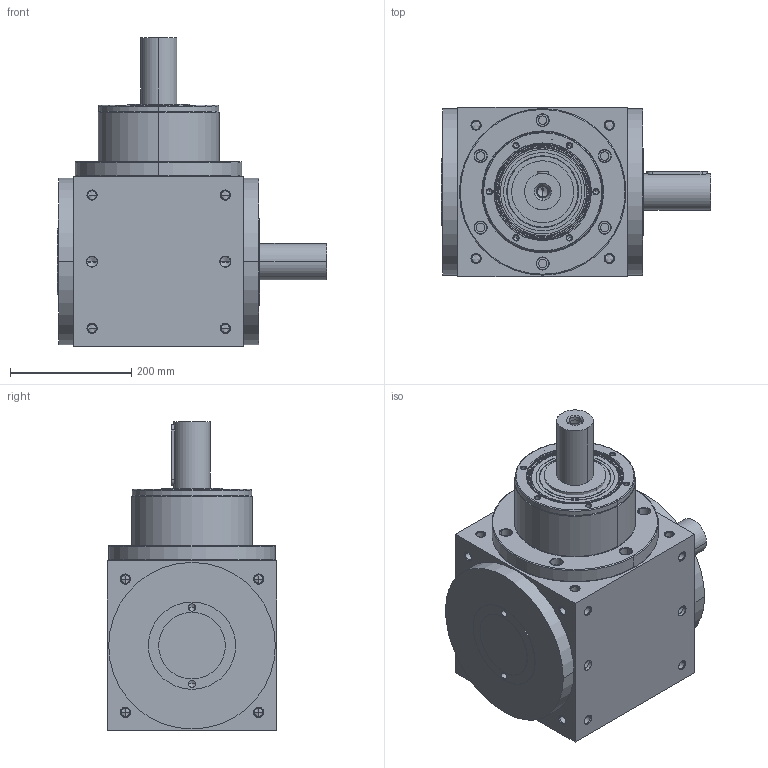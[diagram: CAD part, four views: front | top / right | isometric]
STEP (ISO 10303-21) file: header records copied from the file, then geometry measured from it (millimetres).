
FILE_DESCRIPTION((''),'2;1');
FILE_NAME('ATB280R1-1_ASM','2014-07-17T',('D00080'),(''),'PRO/ENGINEER BY PARAMETRIC TECHNOLOGY CORPORATION, 2008170','PRO/ENGINEER BY PARAMETRIC TECHNOLOGY CORPORATION, 2008170','');
FILE_SCHEMA(('CONFIG_CONTROL_DESIGN'));
Length unit declared in the file: millimetre
Products named in the file (4): ATBR1-HOUSING-1-A; P1820A00001; 22400071010; ATB280R1-1_ASM
Assembly tree (3 placements, depth 2):
  ATB280R1-1_ASM
    ATBR1-HOUSING-1-A
    P1820A00001
    22400071010
Bounding box: 444 x 280 x 510 mm (x, y, z)
Volume: 28484364.7 mm3; surface area: 976929.1 mm2
Topology: 4 solids, 36 shells, 595 faces, 1470 edges, 871 vertices
Faces by surface type: cylinder 274, cone 208, plane 77, torus 36
Entity records: 17739 total; most frequent: CARTESIAN_POINT 3698, DIRECTION 3152, ORIENTED_EDGE 2656, EDGE_CURVE 1392, AXIS2_PLACEMENT_3D 1322, VERTEX_POINT 871, CIRCLE 716, EDGE_LOOP 709
